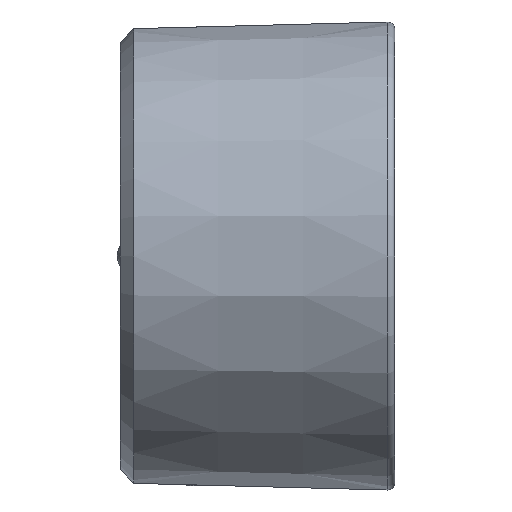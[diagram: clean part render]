
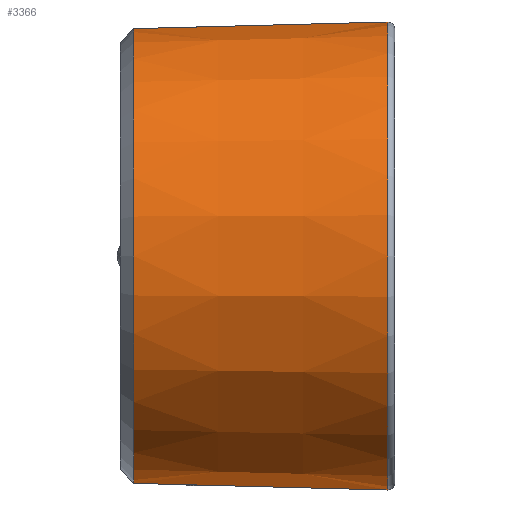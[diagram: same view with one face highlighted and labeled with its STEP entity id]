
A CAD part, left-side view. The second image highlights one B-rep face of the part: STEP entity #3366.
In plain terms, the highlighted conical face has half-angle 1.5 degrees and reference radius 17.251 mm.
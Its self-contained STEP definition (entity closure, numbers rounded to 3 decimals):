
#18=CONICAL_SURFACE('',#3675,17.251,1.5);
#309=LINE('',#10958,#470);
#323=LINE('',#11236,#484);
#470=VECTOR('',#4301,1.);
#484=VECTOR('',#4385,1.);
#831=FACE_OUTER_BOUND('',#1081,.T.);
#1081=EDGE_LOOP('',(#2668,#2669,#2670,#2671));
#1246=CIRCLE('',#3661,17.5);
#1253=CIRCLE('',#3673,17.002);
#1557=VERTEX_POINT('',#10955);
#1558=VERTEX_POINT('',#10957);
#1566=VERTEX_POINT('',#11012);
#1571=VERTEX_POINT('',#11231);
#1929=EDGE_CURVE('',#1558,#1557,#309,.T.);
#1952=EDGE_CURVE('',#1557,#1566,#1246,.T.);
#1967=EDGE_CURVE('',#1558,#1571,#1253,.T.);
#1969=EDGE_CURVE('',#1571,#1566,#323,.T.);
#2668=ORIENTED_EDGE('',*,*,#1952,.T.);
#2669=ORIENTED_EDGE('',*,*,#1969,.F.);
#2670=ORIENTED_EDGE('',*,*,#1967,.F.);
#2671=ORIENTED_EDGE('',*,*,#1929,.T.);
#3366=ADVANCED_FACE('',(#831),#18,.T.);
#3661=AXIS2_PLACEMENT_3D('',#11014,#4351,#4352);
#3673=AXIS2_PLACEMENT_3D('',#11232,#4378,#4379);
#3675=AXIS2_PLACEMENT_3D('',#11235,#4383,#4384);
#4301=DIRECTION('',(0.,-1.,-0.026));
#4351=DIRECTION('center_axis',(0.,1.,0.));
#4352=DIRECTION('ref_axis',(0.,0.,-1.));
#4378=DIRECTION('center_axis',(0.,1.,0.));
#4379=DIRECTION('ref_axis',(0.,0.,-1.));
#4383=DIRECTION('center_axis',(0.,-1.,0.));
#4384=DIRECTION('ref_axis',(0.,0.,1.));
#4385=DIRECTION('',(0.,-1.,0.026));
#10955=CARTESIAN_POINT('',(-12.5,0.013,82.5));
#10957=CARTESIAN_POINT('',(-12.5,19.,82.998));
#10958=CARTESIAN_POINT('',(-12.5,19.,82.998));
#11012=CARTESIAN_POINT('',(-12.5,0.013,117.5));
#11014=CARTESIAN_POINT('Origin',(-12.5,0.013,100.));
#11231=CARTESIAN_POINT('',(-12.5,19.,117.002));
#11232=CARTESIAN_POINT('Origin',(-12.5,19.,100.));
#11235=CARTESIAN_POINT('Origin',(-12.5,9.5,100.));
#11236=CARTESIAN_POINT('',(-12.5,19.,117.002));
